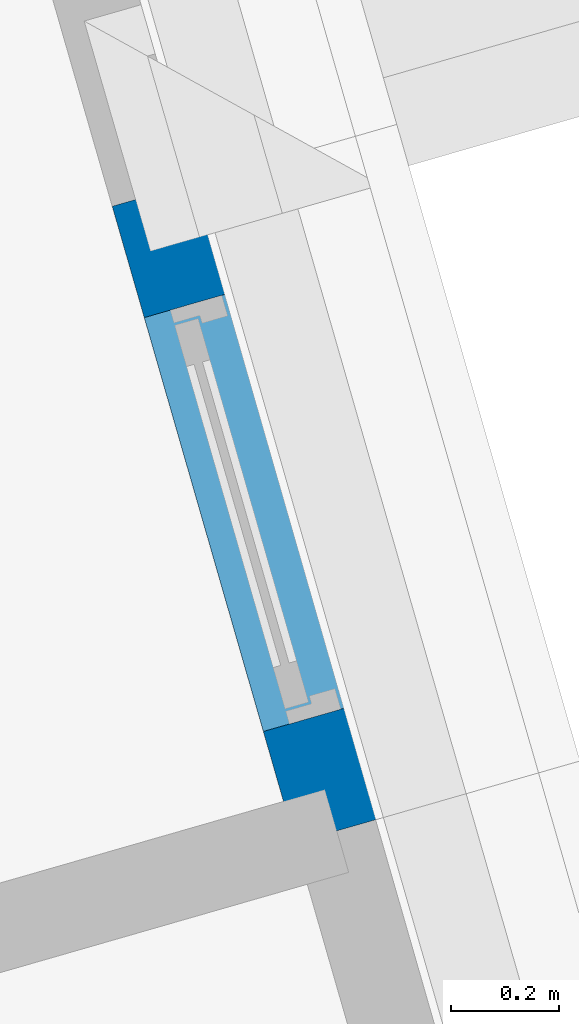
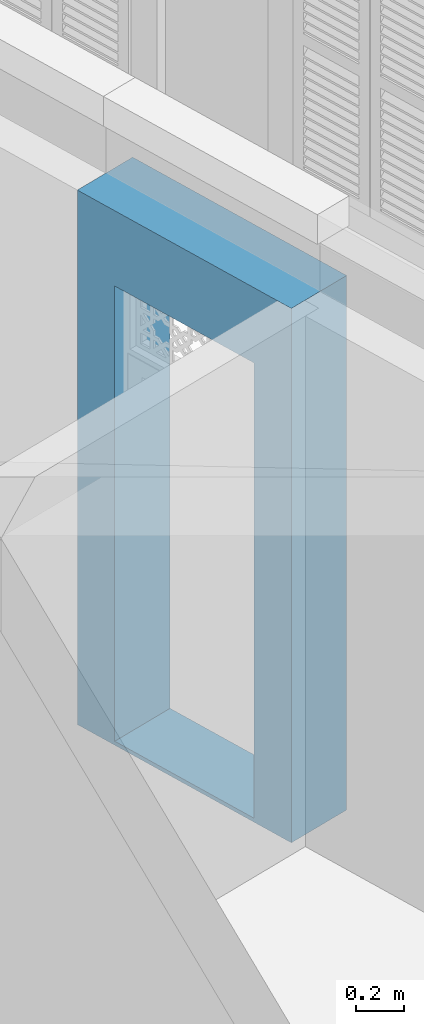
# One storey, part 9 of 22: 1 wall, 1 opening.
"""IFC4 building model written with IfcOpenShell, lengths in metres."""

from ifc_helpers import new_model, si_unit, frame, origin_with_axes, place, context, subcontext, project, spatial, polyline, outline, extrude, material, layer, layer_set, layer_usage, type_object, element, save


model = new_model("IFC4")

# Units and contexts
model_context = context("Model", 3, world=origin_with_axes())
body_context = subcontext(model_context, "Body", "Model", "MODEL_VIEW")
ifc_project = project(units=[si_unit("PLANEANGLEUNIT", "RADIAN"), si_unit("MASSUNIT", "GRAM", prefix="KILO"), si_unit("FORCEUNIT", "NEWTON", prefix="KILO"), si_unit("LENGTHUNIT", "METRE"), si_unit("AREAUNIT", "SQUARE_METRE"), si_unit("VOLUMEUNIT", "CUBIC_METRE")], contexts=[model_context, model_context])

# Site, building, storey
site_placement = place(None, origin_with_axes())
site = spatial("IfcSite", under=ifc_project, at=site_placement, Name="Site plot-9", CompositionType="ELEMENT")
building_placement = place(None, origin_with_axes())
building = spatial("IfcBuilding", under=site, at=building_placement, Name="Building plot-9", CompositionType="ELEMENT")
storey_placement = place(None, frame((0.0, 0.0, 2.85), z_axis=(0.0, 0.0, 1.0), x_axis=(1.0, 0.0, 0.0)))
storey = spatial("IfcBuildingStorey", under=building, at=storey_placement, Name="plot-9 1", CompositionType="ELEMENT", Elevation=2.85)

# Wall, opening
ifc_material = material(Name="Masonry")
ifc_layer = layer(ifc_material, 0.33, ventilated=False)
ifc_layer_set = layer_set([ifc_layer], Name="exterior_0.08_0.25")
ifc_layer_usage = layer_usage(ifc_layer_set, "AXIS2", "POSITIVE", -0.25)
wall_type = type_object("IfcWallType", Name="exterior_0.08_0.25", PredefinedType="SOLIDWALL", material=ifc_layer_set)
wall_placement = place(storey_placement, frame((-16.7509269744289, -3.3156665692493, 0.0), z_axis=(0.0, 0.0, 1.0), x_axis=(-0.276523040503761, 0.961007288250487, 0.0)))
wall = element("IfcWall", 1, at=wall_placement, inside=storey, type_object=wall_type, material=ifc_layer_usage, Name="exterior", context=body_context, shape_type="SweptSolid", body=[
    extrude(outline(polyline([(-2.32212887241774e-15, 0.0800000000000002), (6.5656239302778e-15, -0.250000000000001), (1.23044555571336, -0.25), (1.23044555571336, 0.0799999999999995), (-2.32212887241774e-15, 0.0800000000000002)])), origin_with_axes(), (0.0, 0.0, 1.0), 2.7),
])
opening_placement = place(wall_placement, frame((0.215222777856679, 0.0, 0.02)))
element("IfcOpeningElement", 2, at=opening_placement, cuts=wall, Name="My Opening", ObjectType="Opening", context=body_context, shape_type="SweptSolid", body=[
    extrude(outline(polyline([(0.0, -0.270000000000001), (0.8, -0.270000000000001), (0.800000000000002, 1.1), (9.71445146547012e-16, 1.1), (0.0, -0.270000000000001)])), origin_with_axes(), (0.0, 0.0, 1.0), 2.3),
])

save(model, "model.ifc")
